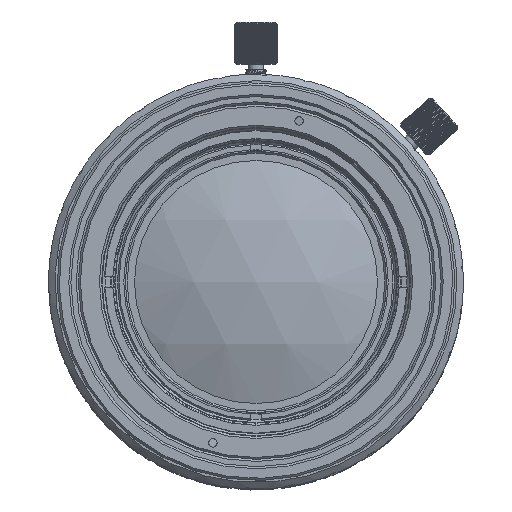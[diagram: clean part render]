
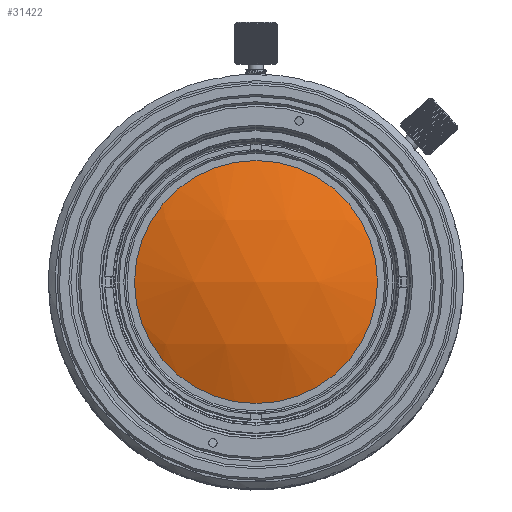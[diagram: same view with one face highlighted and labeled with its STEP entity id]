
A CAD part, top view. The second image highlights one B-rep face of the part: STEP entity #31422.
In plain terms, the highlighted spherical face has radius 29.836 mm.
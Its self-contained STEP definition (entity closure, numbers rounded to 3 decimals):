
#3303 = DIRECTION ( 'NONE',  ( 0., 0., 1. ) ) ;
#3478 = DIRECTION ( 'NONE',  ( 1., 0., 0. ) ) ;
#10243 = AXIS2_PLACEMENT_3D ( 'NONE', #11269, #11455, #22832 ) ;
#11269 = CARTESIAN_POINT ( 'NONE',  ( 0., 0., -22.724 ) ) ;
#11286 = VERTEX_POINT ( 'NONE', #22657 ) ;
#11455 = DIRECTION ( 'NONE',  ( 0., 1., 0. ) ) ;
#17217 = SPHERICAL_SURFACE ( 'NONE', #10243, 29.836 ) ;
#19372 = EDGE_LOOP ( 'NONE', ( #24551 ) ) ;
#20373 = CIRCLE ( 'NONE', #28709, 11.483 ) ;
#22657 = CARTESIAN_POINT ( 'NONE',  ( 11.483, 0., 4.813 ) ) ;
#22832 = DIRECTION ( 'NONE',  ( -1., 0., 0. ) ) ;
#22865 = CARTESIAN_POINT ( 'NONE',  ( 0., 0., 4.813 ) ) ;
#23015 = FACE_OUTER_BOUND ( 'NONE', #19372, .T. ) ;
#24012 = EDGE_CURVE ( 'NONE', #11286, #11286, #20373, .T. ) ;
#24551 = ORIENTED_EDGE ( 'NONE', *, *, #24012, .T. ) ;
#28709 = AXIS2_PLACEMENT_3D ( 'NONE', #22865, #3303, #3478 ) ;
#31422 = ADVANCED_FACE ( 'NONE', ( #23015 ), #17217, .T. ) ;
